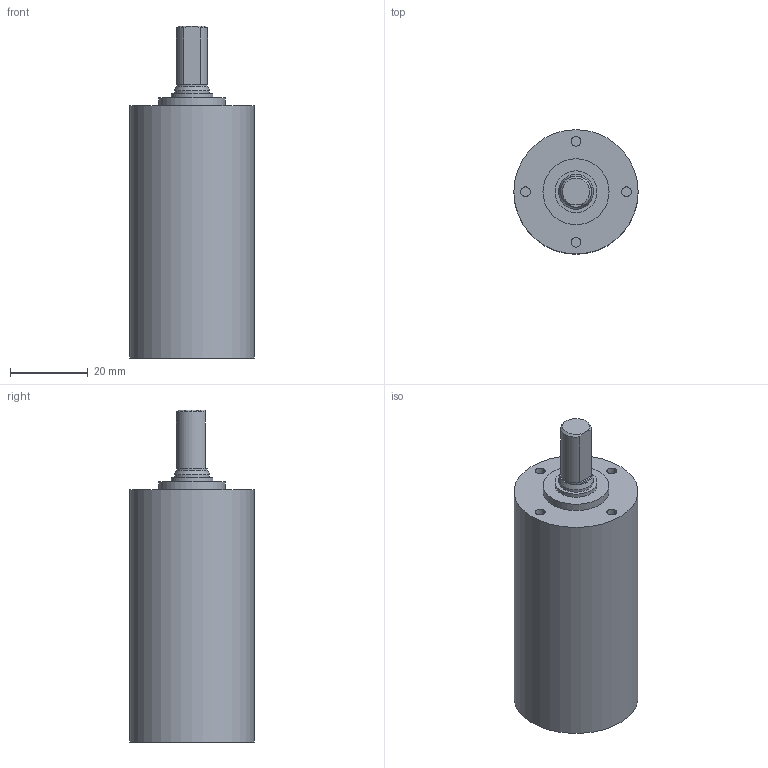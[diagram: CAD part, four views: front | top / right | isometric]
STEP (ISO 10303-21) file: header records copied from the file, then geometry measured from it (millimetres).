
FILE_DESCRIPTION(/* description */ (''),/* implementation_level */ '2;1');
FILE_NAME(/* name */ '32-3_5stage.stp',/* time_stamp */ '2021-02-23T06:58:54+01:00',/* author */ ('DR. FRITZ FAULHABER GmbH & Co. KG'),/* organization */ ('DR. FRITZ FAULHABER GmbH & Co. KG'),/* preprocessor_version */ 'ST-DEVELOPER v16.7',/* originating_system */ 'SIEMENS PLM Software NX 1919',/* authorisation */ '');
FILE_SCHEMA (('AUTOMOTIVE_DESIGN { 1 0 10303 214 3 1 1 1 }'));
Length unit declared in the file: millimetre
Products named in the file (1): 012019_A_5-TP-00213
Bounding box: 32 x 32 x 85.5 mm (x, y, z)
Volume: 45687.2 mm3; surface area: 10018.1 mm2
Topology: 1 solids, 1 shells, 37 faces, 71 edges, 51 vertices
Faces by surface type: plane 19, cylinder 16, cone 2
Full cylindrical faces by diameter (mm): 2.5 x4, 7.9 x1, 9 x1, 10.8 x1, 11.8 x1, 13.5 x1, 17 x1, 26.9 x1, 27.57 x1, 30 x1, 30.459 x1, 32 x1
Entity records: 904 total; most frequent: DIRECTION 172, CARTESIAN_POINT 136, ORIENTED_EDGE 86, AXIS2_PLACEMENT_3D 83, EDGE_LOOP 67, FACE_BOUND 56, CIRCLE 45, EDGE_CURVE 43
